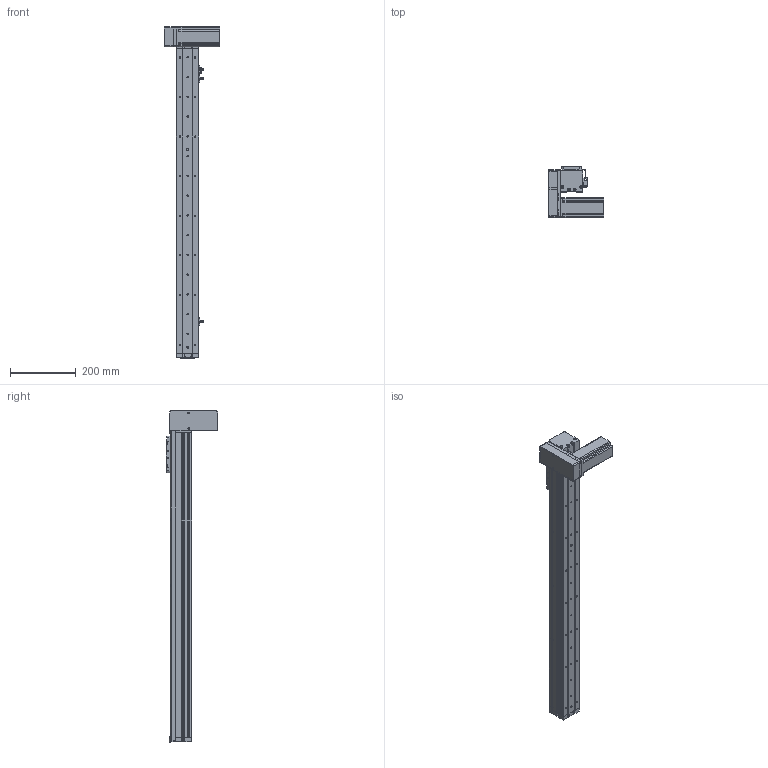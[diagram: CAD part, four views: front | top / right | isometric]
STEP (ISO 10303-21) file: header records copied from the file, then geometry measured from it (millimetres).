
FILE_DESCRIPTION (( 'STEP AP214' ), '1' );
FILE_NAME ('KSD68BS-S750-MRD-CR.STEP', '2019-11-08T03:12:23', ( '微软用户' ), ( '微软中国' ), 'SwSTEP 2.0', 'SolidWorks 2014', '' );
FILE_SCHEMA (( 'AUTOMOTIVE_DESIGN' ));
Length unit declared in the file: millimetre
Products named in the file (14): 台达ECMA－C20604AS伺服电机（400W); KSD68BS 750行程底板全封闭; KSD68BS-S750-MRD-CR; 68遵裔啣揤啣1; KSD68BS 750行程盖板全封闭; 68宽单导轨全封闭丝杆传动安装板1防护罩; KSD68BS 750行程侧板全封闭; 68宽单导轨全封闭同步带端板; 68单导轨全封闭同步带电机座右; 68单导轨全封闭同步带安装板; 悵誘欶奻狟殏; 68宽马达安装板连板上折同步带; 感应片68宽全封闭; U倰嫖萇EEㄜSX672
Assembly tree (17 placements, depth 2):
  KSD68BS-S750-MRD-CR
    KSD68BS 750行程底板全封闭
    台达ECMA－C20604AS伺服电机（400W)
    U倰嫖萇EEㄜSX672  x3
    感应片68宽全封闭
    68宽马达安装板连板上折同步带
    悵誘欶奻狟殏
    68单导轨全封闭同步带安装板
    68单导轨全封闭同步带电机座右
    68宽单导轨全封闭同步带端板
    KSD68BS 750行程侧板全封闭  x2
    68宽单导轨全封闭丝杆传动安装板1防护罩
    68遵裔啣揤啣1  x2
    KSD68BS 750行程盖板全封闭
Bounding box: 167.2 x 155.5 x 1008.1 mm (x, y, z)
Volume: 2200560.2 mm3; surface area: 813072 mm2
Topology: 18 solids, 18 shells, 1458 faces, 4131 edges, 2647 vertices
Faces by surface type: cylinder 679, plane 627, cone 152
Entity records: 45806 total; most frequent: CARTESIAN_POINT 7759, DIRECTION 6897, ORIENTED_EDGE 6598, EDGE_CURVE 3299, AXIS2_PLACEMENT_3D 2475, VERTEX_POINT 2165, VECTOR 1947, LINE 1947
